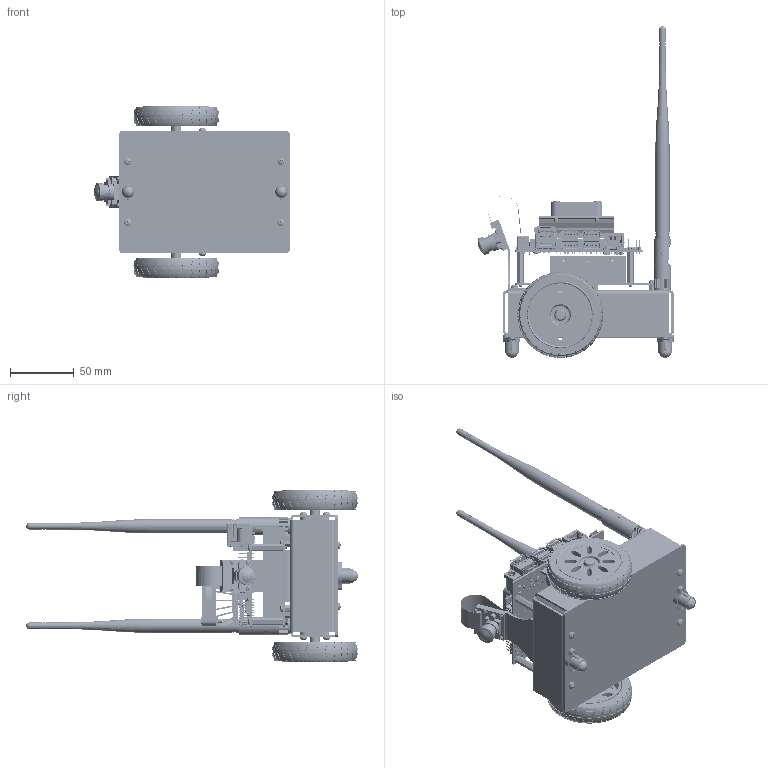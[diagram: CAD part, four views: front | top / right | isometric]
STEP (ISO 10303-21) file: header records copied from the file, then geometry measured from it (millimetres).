
FILE_DESCRIPTION (( 'STEP AP214' ), '1' );
FILE_NAME ('軞蚾2.STEP', '2019-11-20T06:56:49', ( '' ), ( '' ), 'SwSTEP 2.0', 'SolidWorks 2019', '' );
FILE_SCHEMA (( 'AUTOMOTIVE_DESIGN' ));
Length unit declared in the file: millimetre
Products named in the file (132): 2016MM_H100.step; 軞蚾.STEP; fmcr tapping screws-scrape point b gb_GB_CROSS_SCREWS_TYPE144 B ST2.9X16-N.STEP; ____-1.STEP; 074-0216-000_2.step; 091-0022-000_1.step; Fan-40x40_28mm.STEP; PORG_HSK_ASSY_ASM.step; 0805_H140.step; cross recessed thread forming screws gb_GB_CROSS_SCREWS_TYPE138 M2.5X5X4.1-N.STEP; 085-0328-000_2.step; caster ball frame.STEP; TM670M-A2_1.step; 4WD buggy wheel v5_1_1.STEP; 0402_H040.step; Antenna.STEP; Raspberry Pi Camera (G) 160_X_B0_4.STEP; 102-0066-000_2.step; 300-0869-000_3.step; MEC_STANDOFF_PTH_620C380P.step; caster ball.STEP; Motor_Gear_Box v4.STEP; 080-1243-000_3.step; 142-13448-1000-A02-SKU0000_ASM.step; 092-0073-000_1.step; PORG_LEAF_SPRING_SCREW.step; Raspberry Pi Camera (G) 160__.STEP; 142-13448-1000-A02_ASM.step; 080-1656-000_3.step; 4WD tyre.STEP; 0603_H060.step; 074-0223-000_2.step; Raspberry Pi Camera (G) 160_X_B0_3.STEP; 090-0243-000_1.step; 300-0402-000_1.step; 090-0096-000_1.step; ____-0.STEP; 115-2628-000_3.step; 142-13449-1000-A02.step; 115-1921-000_3.step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
Assembly tree (489 placements, depth 5):
  軞蚾2
    軞蚾.STEP
      Raspberry Pi Camera (G) 160__.STEP
        Raspberry Pi Camera (G) 160_X_B0.STEP
        Raspberry Pi Camera (G) 160_X_B0_2.STEP
        Raspberry Pi Camera (G) 160_X_B0_3.STEP
        Raspberry Pi Camera (G) 160_X_B0_4.STEP
        Raspberry Pi Camera (G) 160_X_B0_5.STEP
        Raspberry Pi Camera (G) 160_X_B0_7.STEP
        Raspberry Pi Camera (G) 160_X_B0_8.STEP
      4WD arduino buggy.STEP
        4WD buggy wheel v5_1_2.STEP
          4WD tyre.STEP
          4WD buggy wheel v5_1_1.STEP
        M3 X 30 n nut v3.STEP
          M3 X 30.STEP
          Component2.STEP
        M3 X 30 n nut v3_1.STEP
          M3 X 30.STEP
          Component2.STEP
        Motor_Gear_Box v4.STEP
      ____4WD arduino buggy.STEP
        ____4WD buggy wheel v5_1_2.STEP
          ____4WD tyre.STEP
          ____4WD buggy wheel v5_1_1.STEP
        ____M3 X 30 n nut v3.STEP
          ____M3 X 30.STEP
          ____Component2.STEP
        ____M3 X 30 n nut v3_1.STEP
          ____M3 X 30.STEP
          ____Component2.STEP
        ____Motor_Gear_Box v4.STEP
      ____PCB.STEP
        PCB.STEP
        ______.STEP
        12V.STEP
        ____.STEP
        1.14 TFT IPS - 13P - Reverse Mount.STEP
      Caster ball assembly.STEP
        caster ball frame.STEP
        caster ball.STEP
      Caster ball assembly.STEP
        caster ball frame.STEP
        caster ball.STEP
      Antenna.STEP
        Antenna hub.STEP
        Antennae.STEP
      Antenna.STEP
        Antenna hub.STEP
        Antennae.STEP
      ____-0.STEP
      ____-1.STEP
      __________.STEP
      ______-2.STEP  x4
      ______-3.STEP
      Fan-40x40_28mm.STEP
      M2 WIFI.STEP
      ______-4.STEP  x4
      Wifi antena cable.STEP  x2
      cross recessed thread forming screws gb_GB_CROSS_SCREWS_TYPE138 M3X6X5-N.STEP  x10
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Bounding box: 153.5 x 260.02 x 134.4 mm (x, y, z)
Volume: 320979.2 mm3; surface area: 317003.1 mm2
Topology: 835 solids, 979 shells, 38239 faces, 102735 edges, 67151 vertices
Faces by surface type: plane 29511, cylinder 7349, bspline 567, cone 411, torus 255, sphere 146
Entity records: 991485 total; most frequent: CARTESIAN_POINT 319038, ORIENTED_EDGE 146236, DIRECTION 109316, EDGE_CURVE 73383, VERTEX_POINT 47861, VECTOR 37478, LINE 37478, AXIS2_PLACEMENT_3D 35919
